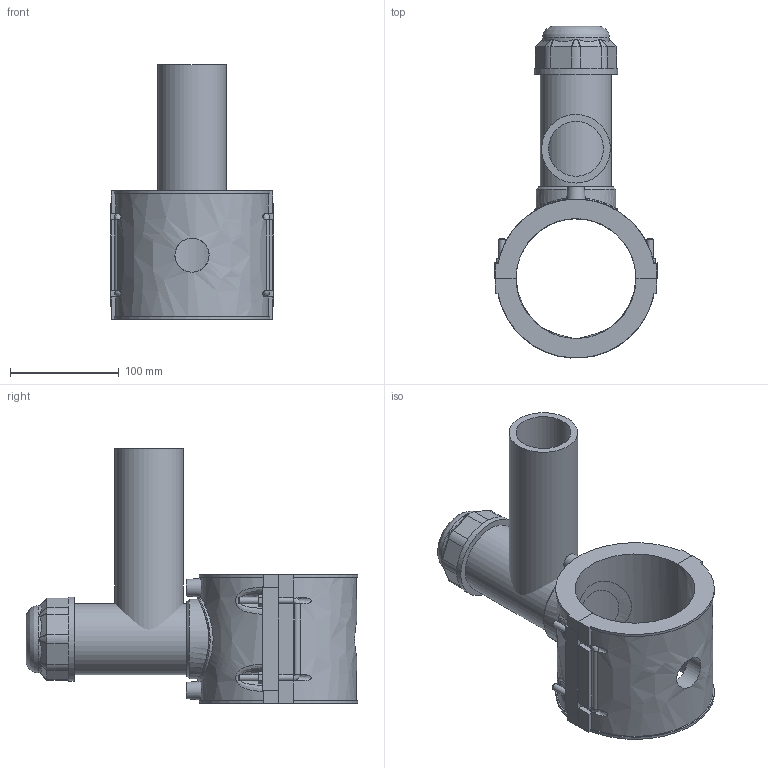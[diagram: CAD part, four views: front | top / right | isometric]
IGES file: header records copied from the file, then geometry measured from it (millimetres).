
Global section: file name: 4963P4110063; native system: Autodesk Inventor 2019; preprocessor: unknown; author: KIM; date: 20220317.112813; units: millimetre
Bounding box: 150 x 304.74 x 234 mm (x, y, z)
Volume: 1336874.9 mm3; surface area: 263827.6 mm2
Topology: 3 solids, 3 shells, 218 faces, 559 edges, 364 vertices
Faces by surface type: bspline 218
